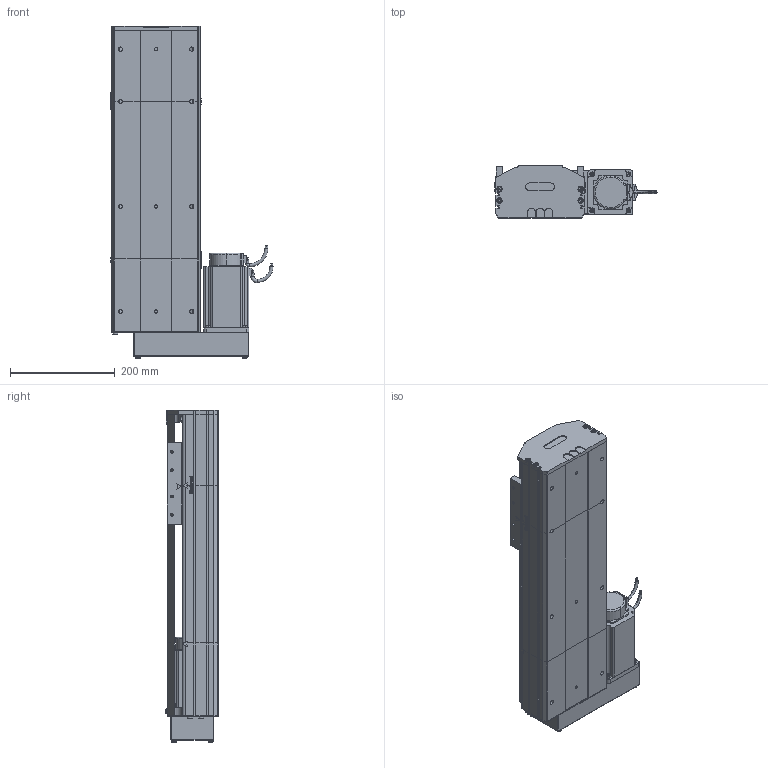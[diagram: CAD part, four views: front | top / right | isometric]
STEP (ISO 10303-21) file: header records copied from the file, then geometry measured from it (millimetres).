
FILE_DESCRIPTION (( 'STEP AP214' ), '1' );
FILE_NAME ('D17 TSH BL S300.STEP', '2010-06-29T14:41:00', ( 'Christophe Gaillard' ), ( 'SGA' ), 'SwSTEP 2.0', 'SolidWorks 2010', '' );
FILE_SCHEMA (( 'AUTOMOTIVE_DESIGN' ));
Length unit declared in the file: millimetre
Products named in the file (33): vis M5 L5_Default; Moteur motionking 90BLDC125A-640; avant 90BLDC125A-640; Conecteur_Default; corps 90BLDC125A-640; Conecteur2_Default; codeur 90BLDC125-640; Cvis M5 L70_Default; renvoi BL_Default; Vis M5 L16-2_Default; chariot D17S_Default; Chariot D17; guide D17; vis M5 L12_Default; plaque de  bout BM head D17_Default; couvercle D17 head_Default; Arbre+rail head D17; corpl head D17 BM_Default; head BL_Default; vis M5 L25_Default; vis M5 L8 90°_Default; couvercle D17_Default; D17 TSH BL S300; Arbre+rail tail D17; arbre + rail D17 Course 300 ; couvercle D17 course L300_Default; corp D17 300_Default; course 300 D17_Default; tete d''axe haut D17; tete d''axe bas D17; plaque de  bout tail D17_Default; corpl tail D17+L100_Default; Tail D17+L100_Default
Assembly tree (55 placements, depth 4):
  D17 TSH BL S300
    chariot D17S_Default
      guide D17  x2
      Chariot D17
      vis M5 L12_Default  x4
    course 300 D17_Default
      corp D17 300_Default
      couvercle D17 course L300_Default
      arbre + rail D17 Course 300 
    Tail D17+L100_Default
      vis M5 L12_Default  x4
      vis M5 L8 90°_Default  x2
      couvercle D17_Default
      Arbre+rail tail D17
      corpl tail D17+L100_Default
      tete d''axe haut D17
      vis M5 L25_Default  x2
      tete d''axe bas D17
      plaque de  bout tail D17_Default
    head BL_Default
      Cvis M5 L70_Default  x2
      vis M5 L12_Default  x8
      renvoi BL_Default
      Vis M5 L16-2_Default  x4
      corpl head D17 BM_Default
      couvercle D17 head_Default
      vis M5 L5_Default  x2
      Arbre+rail head D17
      plaque de  bout BM head D17_Default
      Moteur motionking 90BLDC125A-640
        Conecteur_Default
        codeur 90BLDC125-640
        avant 90BLDC125A-640
        Conecteur2_Default
        corps 90BLDC125A-640
Bounding box: 308.95 x 99.7 x 632.7 mm (x, y, z)
Volume: 5153724 mm3; surface area: 1244342.3 mm2
Topology: 80 solids, 80 shells, 2227 faces, 5567 edges, 3592 vertices
Faces by surface type: plane 1400, cylinder 550, bspline 136, torus 73, cone 64, sphere 4
Entity records: 71717 total; most frequent: CARTESIAN_POINT 22462, ORIENTED_EDGE 8642, DIRECTION 8098, EDGE_CURVE 4321, LINE 3030, VECTOR 3030, VERTEX_POINT 2838, AXIS2_PLACEMENT_3D 2534
